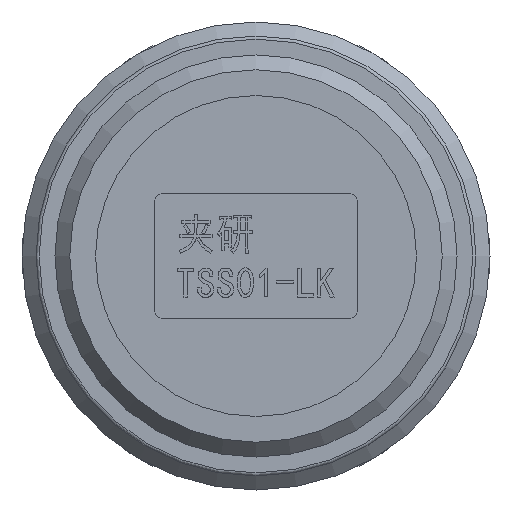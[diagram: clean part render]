
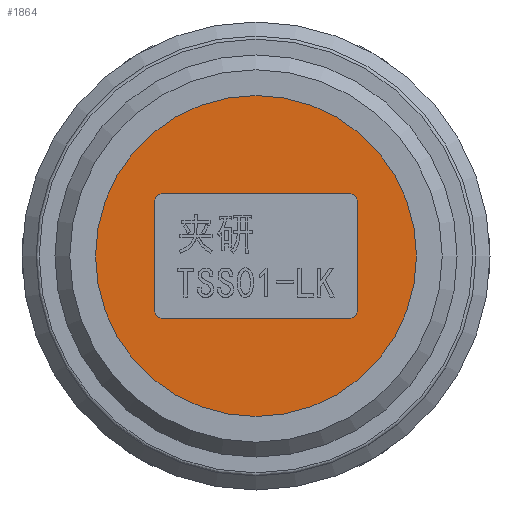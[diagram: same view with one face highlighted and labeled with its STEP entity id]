
A CAD part, front view. The second image highlights one B-rep face of the part: STEP entity #1864.
In plain terms, the highlighted planar face has unit normal (0, -1, 0).
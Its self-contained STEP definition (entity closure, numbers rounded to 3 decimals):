
#1864=ADVANCED_FACE('',(#2256,#2257),#2122,.T.);
#2122=PLANE('',#5899);
#2256=FACE_BOUND('',#2349,.T.);
#2257=FACE_BOUND('',#2350,.T.);
#2349=EDGE_LOOP('',(#2739,#2740,#2741,#2742,#2743,#2744,#2745,#2746));
#2350=EDGE_LOOP('',(#2747));
#2659=CIRCLE('',#5894,0.5);
#2660=CIRCLE('',#5895,0.5);
#2661=CIRCLE('',#5896,0.5);
#2662=CIRCLE('',#5897,0.5);
#2663=CIRCLE('',#5898,10.29);
#2739=ORIENTED_EDGE('',*,*,#4441,.F.);
#2740=ORIENTED_EDGE('',*,*,#4442,.F.);
#2741=ORIENTED_EDGE('',*,*,#4443,.F.);
#2742=ORIENTED_EDGE('',*,*,#4444,.F.);
#2743=ORIENTED_EDGE('',*,*,#4445,.F.);
#2744=ORIENTED_EDGE('',*,*,#4446,.F.);
#2745=ORIENTED_EDGE('',*,*,#4447,.F.);
#2746=ORIENTED_EDGE('',*,*,#4448,.F.);
#2747=ORIENTED_EDGE('',*,*,#4449,.T.);
#4007=VERTEX_POINT('',#7166);
#4008=VERTEX_POINT('',#7167);
#4009=VERTEX_POINT('',#7169);
#4010=VERTEX_POINT('',#7171);
#4011=VERTEX_POINT('',#7173);
#4012=VERTEX_POINT('',#7175);
#4013=VERTEX_POINT('',#7177);
#4014=VERTEX_POINT('',#7179);
#4015=VERTEX_POINT('',#7182);
#4441=EDGE_CURVE('',#4007,#4008,#5075,.T.);
#4442=EDGE_CURVE('',#4009,#4007,#2659,.T.);
#4443=EDGE_CURVE('',#4010,#4009,#5076,.T.);
#4444=EDGE_CURVE('',#4011,#4010,#2660,.T.);
#4445=EDGE_CURVE('',#4012,#4011,#5077,.T.);
#4446=EDGE_CURVE('',#4013,#4012,#2661,.T.);
#4447=EDGE_CURVE('',#4014,#4013,#5078,.T.);
#4448=EDGE_CURVE('',#4008,#4014,#2662,.T.);
#4449=EDGE_CURVE('',#4015,#4015,#2663,.T.);
#5075=LINE('',#7165,#5453);
#5076=LINE('',#7170,#5454);
#5077=LINE('',#7174,#5455);
#5078=LINE('',#7178,#5456);
#5453=VECTOR('',#6172,1.);
#5454=VECTOR('',#6175,1.);
#5455=VECTOR('',#6178,1.);
#5456=VECTOR('',#6181,1.);
#5894=AXIS2_PLACEMENT_3D('',#7168,#6173,#6174);
#5895=AXIS2_PLACEMENT_3D('',#7172,#6176,#6177);
#5896=AXIS2_PLACEMENT_3D('',#7176,#6179,#6180);
#5897=AXIS2_PLACEMENT_3D('',#7180,#6182,#6183);
#5898=AXIS2_PLACEMENT_3D('',#7181,#6184,#6185);
#5899=AXIS2_PLACEMENT_3D('',#7183,#6186,#6187);
#6172=DIRECTION('',(0.,0.,-1.));
#6173=DIRECTION('',(0.,-1.,0.));
#6174=DIRECTION('',(0.,0.,-1.));
#6175=DIRECTION('',(-1.,0.,0.));
#6176=DIRECTION('',(0.,-1.,0.));
#6177=DIRECTION('',(0.,0.,-1.));
#6178=DIRECTION('',(0.,0.,1.));
#6179=DIRECTION('',(0.,-1.,0.));
#6180=DIRECTION('',(0.,0.,-1.));
#6181=DIRECTION('',(1.,0.,0.));
#6182=DIRECTION('',(0.,-1.,0.));
#6183=DIRECTION('',(0.,0.,-1.));
#6184=DIRECTION('',(0.,-1.,0.));
#6185=DIRECTION('',(0.,0.,-1.));
#6186=DIRECTION('',(0.,-1.,0.));
#6187=DIRECTION('',(0.,0.,-1.));
#7165=CARTESIAN_POINT('',(-26.152,0.,0.));
#7166=CARTESIAN_POINT('',(-26.152,0.,3.5));
#7167=CARTESIAN_POINT('',(-26.152,0.,-3.5));
#7168=CARTESIAN_POINT('',(-25.652,0.,3.5));
#7169=CARTESIAN_POINT('',(-25.652,0.,4.));
#7170=CARTESIAN_POINT('',(-19.652,0.,4.));
#7171=CARTESIAN_POINT('',(-13.652,0.,4.));
#7172=CARTESIAN_POINT('',(-13.652,0.,3.5));
#7173=CARTESIAN_POINT('',(-13.152,0.,3.5));
#7174=CARTESIAN_POINT('',(-13.152,0.,0.));
#7175=CARTESIAN_POINT('',(-13.152,0.,-3.5));
#7176=CARTESIAN_POINT('',(-13.652,0.,-3.5));
#7177=CARTESIAN_POINT('',(-13.652,0.,-4.));
#7178=CARTESIAN_POINT('',(-19.652,0.,-4.));
#7179=CARTESIAN_POINT('',(-25.652,0.,-4.));
#7180=CARTESIAN_POINT('',(-25.652,0.,-3.5));
#7181=CARTESIAN_POINT('',(-19.652,0.,0.));
#7182=CARTESIAN_POINT('',(-19.652,0.,-10.29));
#7183=CARTESIAN_POINT('',(-19.652,0.,0.));
